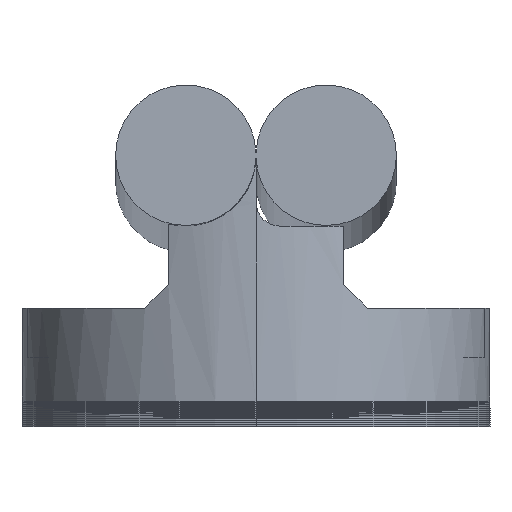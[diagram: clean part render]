
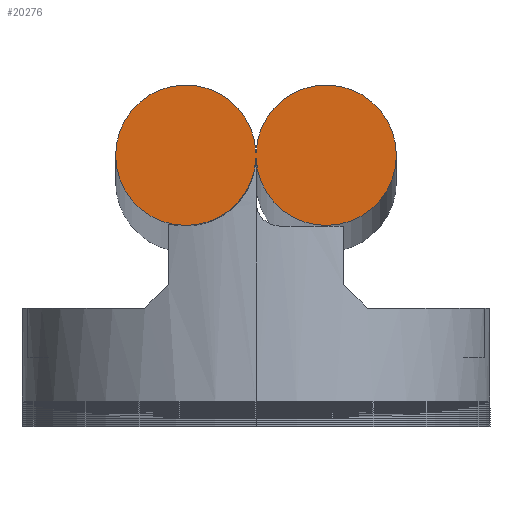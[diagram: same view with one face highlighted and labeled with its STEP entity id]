
A CAD part, top view. The second image highlights one B-rep face of the part: STEP entity #20276.
In plain terms, the highlighted planar face has unit normal (0, 0, 1).
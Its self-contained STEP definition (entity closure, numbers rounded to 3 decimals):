
#16576 = VERTEX_POINT ( 'NONE', #41833 ) ;
#16579 = EDGE_CURVE ( 'NONE', #16580, #16576, #41832, .T. ) ;
#16580 = VERTEX_POINT ( 'NONE', #41827 ) ;
#19975 = EDGE_CURVE ( 'NONE', #19985, #16580, #21620, .T. ) ;
#19985 = VERTEX_POINT ( 'NONE', #21601 ) ;
#19987 = EDGE_CURVE ( 'NONE', #19988, #19985, #21597, .T. ) ;
#19988 = VERTEX_POINT ( 'NONE', #21589 ) ;
#20276 = ADVANCED_FACE ( 'NONE', ( #22442 ), #22403, .T. ) ;
#20278 = EDGE_LOOP ( 'NONE', ( #20279, #20280, #20281, #20384, #20386 ) ) ;
#20279 = ORIENTED_EDGE ( 'NONE', *, *, #16579, .T. ) ;
#20280 = ORIENTED_EDGE ( 'NONE', *, *, #20288, .T. ) ;
#20281 = ORIENTED_EDGE ( 'NONE', *, *, #20298, .T. ) ;
#20286 = VERTEX_POINT ( 'NONE', #22519 ) ;
#20288 = EDGE_CURVE ( 'NONE', #16576, #20286, #22512, .T. ) ;
#20298 = EDGE_CURVE ( 'NONE', #20286, #19988, #22586, .T. ) ;
#20384 = ORIENTED_EDGE ( 'NONE', *, *, #19987, .T. ) ;
#20386 = ORIENTED_EDGE ( 'NONE', *, *, #19975, .T. ) ;
#21589 = CARTESIAN_POINT ( 'NONE',  ( -0.005, 21.25, 0. ) ) ;
#21591 = DIRECTION ( 'NONE',  ( -1., 0., 0. ) ) ;
#21593 = DIRECTION ( 'NONE',  ( 0., 0., 1. ) ) ;
#21594 = CARTESIAN_POINT ( 'NONE',  ( -6., 21., 0. ) ) ;
#21595 = AXIS2_PLACEMENT_3D ( 'NONE', #21594, #21593, #21591 ) ;
#21597 = CIRCLE ( 'NONE', #21595, 6. ) ;
#21601 = CARTESIAN_POINT ( 'NONE',  ( -0.005, 20.75, 0. ) ) ;
#21614 = DIRECTION ( 'NONE',  ( 1., 0., 0. ) ) ;
#21616 = VECTOR ( 'NONE', #21614, 1000. ) ;
#21618 = CARTESIAN_POINT ( 'NONE',  ( -0.005, 20.75, 0. ) ) ;
#21620 = LINE ( 'NONE', #21618, #21616 ) ;
#22397 = CARTESIAN_POINT ( 'NONE',  ( 6., 21., 0. ) ) ;
#22398 = AXIS2_PLACEMENT_3D ( 'NONE', #22397, #22530, #22528 ) ;
#22403 = PLANE ( 'NONE',  #22398 ) ;
#22442 = FACE_OUTER_BOUND ( 'NONE', #20278, .T. ) ;
#22505 = DIRECTION ( 'NONE',  ( 1., 0., 0. ) ) ;
#22507 = DIRECTION ( 'NONE',  ( 0., 0., 1. ) ) ;
#22508 = CARTESIAN_POINT ( 'NONE',  ( 6., 21., 0. ) ) ;
#22510 = AXIS2_PLACEMENT_3D ( 'NONE', #22508, #22507, #22505 ) ;
#22512 = CIRCLE ( 'NONE', #22510, 6. ) ;
#22519 = CARTESIAN_POINT ( 'NONE',  ( 0.005, 21.25, 0. ) ) ;
#22528 = DIRECTION ( 'NONE',  ( 1., 0., 0. ) ) ;
#22530 = DIRECTION ( 'NONE',  ( 0., 0., 1. ) ) ;
#22580 = DIRECTION ( 'NONE',  ( -1., 0., 0. ) ) ;
#22582 = VECTOR ( 'NONE', #22580, 1000. ) ;
#22584 = CARTESIAN_POINT ( 'NONE',  ( -0.005, 21.25, 0. ) ) ;
#22586 = LINE ( 'NONE', #22584, #22582 ) ;
#41827 = CARTESIAN_POINT ( 'NONE',  ( 0.005, 20.75, 0. ) ) ;
#41828 = DIRECTION ( 'NONE',  ( 1., 0., 0. ) ) ;
#41829 = DIRECTION ( 'NONE',  ( 0., 0., 1. ) ) ;
#41830 = CARTESIAN_POINT ( 'NONE',  ( 6., 21., 0. ) ) ;
#41831 = AXIS2_PLACEMENT_3D ( 'NONE', #41830, #41829, #41828 ) ;
#41832 = CIRCLE ( 'NONE', #41831, 6. ) ;
#41833 = CARTESIAN_POINT ( 'NONE',  ( 12., 21., 0. ) ) ;
